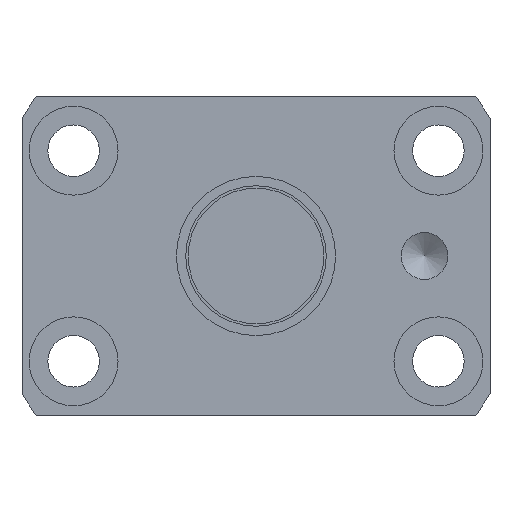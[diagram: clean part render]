
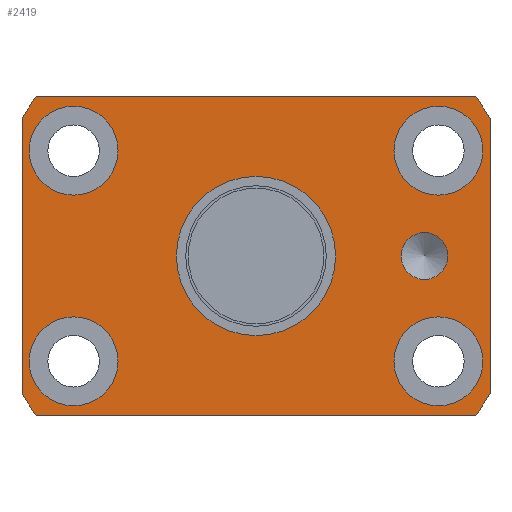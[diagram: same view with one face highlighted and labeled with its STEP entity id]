
A CAD part, left-side view. The second image highlights one B-rep face of the part: STEP entity #2419.
In plain terms, the highlighted planar face has unit normal (-1, 0, 0).
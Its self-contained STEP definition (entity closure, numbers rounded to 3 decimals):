
#57 = ORIENTED_EDGE ( 'NONE', *, *, #1685, .T. ) ;
#97 = CIRCLE ( 'NONE', #1816, 4.75 ) ;
#116 = CARTESIAN_POINT ( 'NONE',  ( 0., 0., 0. ) ) ;
#129 = EDGE_CURVE ( 'NONE', #2671, #2671, #2491, .T. ) ;
#161 = VERTEX_POINT ( 'NONE', #2418 ) ;
#162 = ORIENTED_EDGE ( 'NONE', *, *, #2683, .F. ) ;
#163 = CARTESIAN_POINT ( 'NONE',  ( 0., -19.486, -11.25 ) ) ;
#197 = CIRCLE ( 'NONE', #1046, 4.75 ) ;
#229 = VERTEX_POINT ( 'NONE', #2232 ) ;
#235 = VERTEX_POINT ( 'NONE', #1372 ) ;
#252 = FACE_OUTER_BOUND ( 'NONE', #2457, .T. ) ;
#278 = LINE ( 'NONE', #3287, #2621 ) ;
#285 = EDGE_CURVE ( 'NONE', #1289, #823, #2333, .T. ) ;
#320 = EDGE_CURVE ( 'NONE', #3150, #1586, #1201, .T. ) ;
#378 = VERTEX_POINT ( 'NONE', #1687 ) ;
#382 = DIRECTION ( 'NONE',  ( 0., 1., 0. ) ) ;
#431 = CARTESIAN_POINT ( 'NONE',  ( 0., 8.5, 0. ) ) ;
#437 = DIRECTION ( 'NONE',  ( 0., 0., 1. ) ) ;
#442 = DIRECTION ( 'NONE',  ( 1., 0., 0. ) ) ;
#451 = EDGE_LOOP ( 'NONE', ( #2328 ) ) ;
#497 = EDGE_LOOP ( 'NONE', ( #1421 ) ) ;
#516 = AXIS2_PLACEMENT_3D ( 'NONE', #1394, #875, #382 ) ;
#523 = AXIS2_PLACEMENT_3D ( 'NONE', #1675, #1709, #1149 ) ;
#537 = EDGE_LOOP ( 'NONE', ( #57 ) ) ;
#589 = ORIENTED_EDGE ( 'NONE', *, *, #2988, .T. ) ;
#609 = CARTESIAN_POINT ( 'NONE',  ( 0., 0., 0. ) ) ;
#622 = CARTESIAN_POINT ( 'NONE',  ( 0., 24.236, 11.25 ) ) ;
#647 = DIRECTION ( 'NONE',  ( 1., 0., 0. ) ) ;
#648 = CARTESIAN_POINT ( 'NONE',  ( 0., -25., -14.697 ) ) ;
#669 = DIRECTION ( 'NONE',  ( 1., 0., 0. ) ) ;
#672 = EDGE_CURVE ( 'NONE', #235, #971, #2073, .T. ) ;
#710 = EDGE_CURVE ( 'NONE', #2160, #2160, #780, .T. ) ;
#715 = CARTESIAN_POINT ( 'NONE',  ( 0., 23.495, 17. ) ) ;
#739 = DIRECTION ( 'NONE',  ( 0., 0., 1. ) ) ;
#780 = CIRCLE ( 'NONE', #3320, 4.75 ) ;
#799 = EDGE_CURVE ( 'NONE', #161, #161, #197, .T. ) ;
#823 = VERTEX_POINT ( 'NONE', #1521 ) ;
#836 = ORIENTED_EDGE ( 'NONE', *, *, #672, .F. ) ;
#838 = EDGE_CURVE ( 'NONE', #2469, #2469, #2718, .T. ) ;
#875 = DIRECTION ( 'NONE',  ( 1., 0., 0. ) ) ;
#904 = CARTESIAN_POINT ( 'NONE',  ( 0., -19.486, 11.25 ) ) ;
#907 = ORIENTED_EDGE ( 'NONE', *, *, #838, .F. ) ;
#971 = VERTEX_POINT ( 'NONE', #980 ) ;
#980 = CARTESIAN_POINT ( 'NONE',  ( 0., 25., -14.697 ) ) ;
#990 = FACE_BOUND ( 'NONE', #1058, .T. ) ;
#1046 = AXIS2_PLACEMENT_3D ( 'NONE', #3332, #2334, #3107 ) ;
#1057 = DIRECTION ( 'NONE',  ( 0., 0., 1. ) ) ;
#1058 = EDGE_LOOP ( 'NONE', ( #907 ) ) ;
#1124 = CARTESIAN_POINT ( 'NONE',  ( 0., -18., 2.5 ) ) ;
#1142 = ORIENTED_EDGE ( 'NONE', *, *, #285, .F. ) ;
#1149 = DIRECTION ( 'NONE',  ( 0., 1., 0. ) ) ;
#1167 = DIRECTION ( 'NONE',  ( 0., 1., 0. ) ) ;
#1201 = LINE ( 'NONE', #3008, #2174 ) ;
#1224 = EDGE_LOOP ( 'NONE', ( #589 ) ) ;
#1227 = LINE ( 'NONE', #2983, #1964 ) ;
#1289 = VERTEX_POINT ( 'NONE', #2967 ) ;
#1292 = EDGE_CURVE ( 'NONE', #378, #3150, #1756, .T. ) ;
#1372 = CARTESIAN_POINT ( 'NONE',  ( 0., 23.495, -17. ) ) ;
#1394 = CARTESIAN_POINT ( 'NONE',  ( 0., 0., 0. ) ) ;
#1419 = DIRECTION ( 'NONE',  ( -1., 0., 0. ) ) ;
#1421 = ORIENTED_EDGE ( 'NONE', *, *, #129, .T. ) ;
#1456 = ORIENTED_EDGE ( 'NONE', *, *, #320, .F. ) ;
#1489 = AXIS2_PLACEMENT_3D ( 'NONE', #1554, #3069, #2013 ) ;
#1521 = CARTESIAN_POINT ( 'NONE',  ( 0., 23.495, 17. ) ) ;
#1523 = FACE_BOUND ( 'NONE', #3045, .T. ) ;
#1554 = CARTESIAN_POINT ( 'NONE',  ( 0., 19.486, 11.25 ) ) ;
#1576 = EDGE_CURVE ( 'NONE', #971, #1289, #1227, .T. ) ;
#1586 = VERTEX_POINT ( 'NONE', #648 ) ;
#1666 = ORIENTED_EDGE ( 'NONE', *, *, #1292, .F. ) ;
#1675 = CARTESIAN_POINT ( 'NONE',  ( 0., 0., 0. ) ) ;
#1685 = EDGE_CURVE ( 'NONE', #1902, #1902, #2726, .T. ) ;
#1687 = CARTESIAN_POINT ( 'NONE',  ( 0., -23.495, 17. ) ) ;
#1692 = AXIS2_PLACEMENT_3D ( 'NONE', #3090, #2020, #739 ) ;
#1709 = DIRECTION ( 'NONE',  ( 1., 0., 0. ) ) ;
#1746 = DIRECTION ( 'NONE',  ( 0., 1., 0. ) ) ;
#1756 = CIRCLE ( 'NONE', #2666, 29. ) ;
#1816 = AXIS2_PLACEMENT_3D ( 'NONE', #904, #647, #2198 ) ;
#1868 = VECTOR ( 'NONE', #2825, 1000. ) ;
#1902 = VERTEX_POINT ( 'NONE', #622 ) ;
#1919 = ORIENTED_EDGE ( 'NONE', *, *, #1576, .F. ) ;
#1941 = DIRECTION ( 'NONE',  ( 1., 0., 0. ) ) ;
#1951 = EDGE_CURVE ( 'NONE', #1586, #2713, #2292, .T. ) ;
#1964 = VECTOR ( 'NONE', #437, 1000. ) ;
#2013 = DIRECTION ( 'NONE',  ( 0., 1., 0. ) ) ;
#2020 = DIRECTION ( 'NONE',  ( -1., 0., 0. ) ) ;
#2024 = FACE_BOUND ( 'NONE', #451, .T. ) ;
#2064 = ORIENTED_EDGE ( 'NONE', *, *, #3060, .F. ) ;
#2073 = CIRCLE ( 'NONE', #516, 29. ) ;
#2074 = PLANE ( 'NONE',  #2505 ) ;
#2092 = FACE_BOUND ( 'NONE', #497, .T. ) ;
#2160 = VERTEX_POINT ( 'NONE', #3198 ) ;
#2174 = VECTOR ( 'NONE', #3024, 1000. ) ;
#2198 = DIRECTION ( 'NONE',  ( 0., 1., 0. ) ) ;
#2232 = CARTESIAN_POINT ( 'NONE',  ( 0., -14.736, 11.25 ) ) ;
#2237 = DIRECTION ( 'NONE',  ( 0., 1., 0. ) ) ;
#2281 = CARTESIAN_POINT ( 'NONE',  ( 0., -25., 14.697 ) ) ;
#2292 = CIRCLE ( 'NONE', #523, 29. ) ;
#2328 = ORIENTED_EDGE ( 'NONE', *, *, #799, .T. ) ;
#2333 = CIRCLE ( 'NONE', #2493, 29. ) ;
#2334 = DIRECTION ( 'NONE',  ( 1., 0., 0. ) ) ;
#2394 = DIRECTION ( 'NONE',  ( 1., 0., 0. ) ) ;
#2418 = CARTESIAN_POINT ( 'NONE',  ( 0., 24.236, -11.25 ) ) ;
#2419 = ADVANCED_FACE ( 'NONE', ( #990, #2024, #3062, #1523, #2545, #252, #2092 ), #2074, .T. ) ;
#2457 = EDGE_LOOP ( 'NONE', ( #2064, #2534, #1456, #1666, #162, #1142, #1919, #836 ) ) ;
#2469 = VERTEX_POINT ( 'NONE', #1124 ) ;
#2491 = CIRCLE ( 'NONE', #3098, 8.5 ) ;
#2493 = AXIS2_PLACEMENT_3D ( 'NONE', #609, #1941, #1167 ) ;
#2505 = AXIS2_PLACEMENT_3D ( 'NONE', #2955, #1419, #1057 ) ;
#2534 = ORIENTED_EDGE ( 'NONE', *, *, #1951, .F. ) ;
#2545 = FACE_BOUND ( 'NONE', #537, .T. ) ;
#2583 = LINE ( 'NONE', #715, #1868 ) ;
#2621 = VECTOR ( 'NONE', #1746, 1000. ) ;
#2623 = DIRECTION ( 'NONE',  ( 0., 1., 0. ) ) ;
#2666 = AXIS2_PLACEMENT_3D ( 'NONE', #116, #2394, #2623 ) ;
#2671 = VERTEX_POINT ( 'NONE', #431 ) ;
#2683 = EDGE_CURVE ( 'NONE', #823, #378, #2583, .T. ) ;
#2713 = VERTEX_POINT ( 'NONE', #3054 ) ;
#2718 = CIRCLE ( 'NONE', #1692, 2.5 ) ;
#2726 = CIRCLE ( 'NONE', #1489, 4.75 ) ;
#2750 = CARTESIAN_POINT ( 'NONE',  ( 0., 0., 0. ) ) ;
#2825 = DIRECTION ( 'NONE',  ( 0., -1., 0. ) ) ;
#2922 = ORIENTED_EDGE ( 'NONE', *, *, #710, .T. ) ;
#2955 = CARTESIAN_POINT ( 'NONE',  ( 0., 12.75, 0. ) ) ;
#2967 = CARTESIAN_POINT ( 'NONE',  ( 0., 25., 14.697 ) ) ;
#2983 = CARTESIAN_POINT ( 'NONE',  ( 0., 25., -14.697 ) ) ;
#2988 = EDGE_CURVE ( 'NONE', #229, #229, #97, .T. ) ;
#3003 = DIRECTION ( 'NONE',  ( 0., 1., 0. ) ) ;
#3008 = CARTESIAN_POINT ( 'NONE',  ( 0., -25., 14.697 ) ) ;
#3024 = DIRECTION ( 'NONE',  ( 0., 0., -1. ) ) ;
#3045 = EDGE_LOOP ( 'NONE', ( #2922 ) ) ;
#3054 = CARTESIAN_POINT ( 'NONE',  ( 0., -23.495, -17. ) ) ;
#3060 = EDGE_CURVE ( 'NONE', #2713, #235, #278, .T. ) ;
#3062 = FACE_BOUND ( 'NONE', #1224, .T. ) ;
#3069 = DIRECTION ( 'NONE',  ( 1., 0., 0. ) ) ;
#3090 = CARTESIAN_POINT ( 'NONE',  ( 0., -18., 0. ) ) ;
#3098 = AXIS2_PLACEMENT_3D ( 'NONE', #2750, #442, #2237 ) ;
#3107 = DIRECTION ( 'NONE',  ( 0., 1., 0. ) ) ;
#3150 = VERTEX_POINT ( 'NONE', #2281 ) ;
#3198 = CARTESIAN_POINT ( 'NONE',  ( 0., -14.736, -11.25 ) ) ;
#3287 = CARTESIAN_POINT ( 'NONE',  ( 0., -23.495, -17. ) ) ;
#3320 = AXIS2_PLACEMENT_3D ( 'NONE', #163, #669, #3003 ) ;
#3332 = CARTESIAN_POINT ( 'NONE',  ( 0., 19.486, -11.25 ) ) ;
